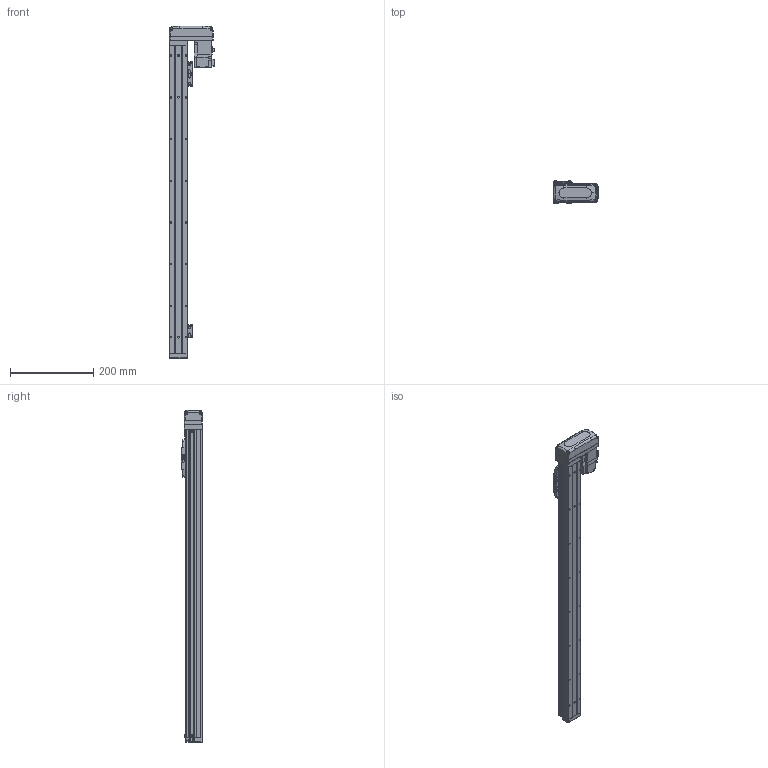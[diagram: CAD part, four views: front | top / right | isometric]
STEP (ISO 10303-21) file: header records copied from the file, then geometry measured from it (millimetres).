
FILE_DESCRIPTION (( 'STEP AP203' ), '1' );
FILE_NAME ('GTH4-600-BL-M05-C4.step', '2023-08-28T00:41:14', ( '微软用户' ), ( '微软中国' ), 'SwSTEP 2.0', 'SolidWorks 2020', '' );
FILE_SCHEMA (( 'CONFIG_CONTROL_DESIGN' ));
Length unit declared in the file: millimetre
Products named in the file (19): GBT 70.1-M3℅6; GBT 70.3-M3℅6; BTH40-006; GBT96.1-2002 3×0.8; BTH40-027-1; BTH-M3X5X6; BTH40-022; BTH50-026; GBT70.1-2000 M3×16; GBT 70.1-M2.5×6; GTH4-600-BL-M05-C4; BTH50-028; BTH40-004; BTH50-023; BTH40-013; BTH40-001-50_BTH40-001-600; BTH50-024; HG-KR13; BTH40-003
Assembly tree (47 placements, depth 2):
  GTH4-600-BL-M05-C4
    BTH40-001-50_BTH40-001-600
    BTH40-003
    BTH40-006
    BTH-M3X5X6  x8
    GBT70.1-2000 M3×16  x4
    BTH50-028  x2
    BTH50-023  x3
    BTH50-024  x3
    GBT 70.1-M3℅6  x6
    GBT96.1-2002 3×0.8  x6
    BTH40-022
    GBT 70.1-M2.5×6  x2
    BTH40-004
    BTH40-013
    HG-KR13
    GBT 70.3-M3℅6  x4
    BTH40-027-1
    BTH50-026
Bounding box: 108.8 x 52 x 796 mm (x, y, z)
Volume: 1425515.8 mm3; surface area: 246750.2 mm2
Topology: 49 solids, 49 shells, 1967 faces, 4631 edges, 2854 vertices
Faces by surface type: plane 1052, cylinder 499, cone 250, torus 128, bspline 34, sphere 4
Entity records: 39339 total; most frequent: CARTESIAN_POINT 7538, DIRECTION 6152, ORIENTED_EDGE 5908, EDGE_CURVE 2954, AXIS2_PLACEMENT_3D 2103, LINE 1946, VECTOR 1946, VERTEX_POINT 1841
